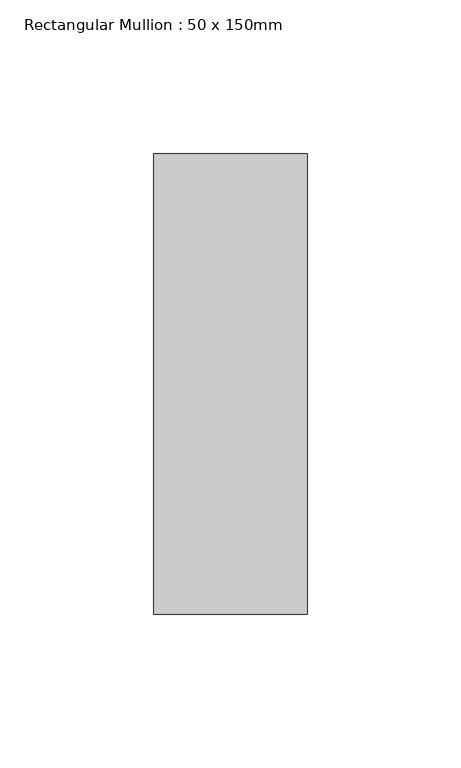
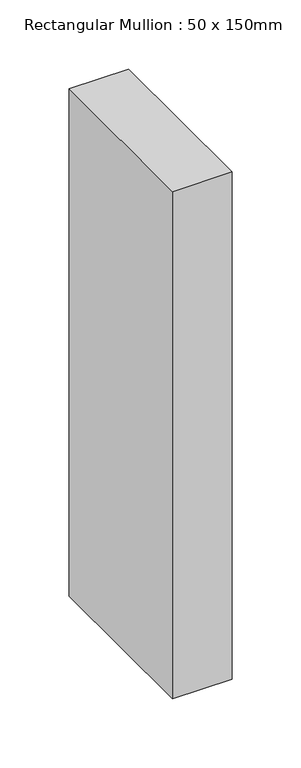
"""IFC4 building model written with IfcOpenShell, lengths in millimetres: member geometry, Rectangular Mullion : 50 x 150mm."""

from ifc_helpers import new_model, si_unit, frame, origin, place, context, project, spatial, polyline, outline, extrude, source, transform, mapped, element, save


def rectangular_mullion_50_x_150mm_6c212b22(model_context):
    return source(origin(), model_context, "Body", "SweptSolid", [
        extrude(outline(polyline([(0.0, 75.0), (0.0, -75.0), (-50.0, -75.0), (-50.0, 75.0), (0.0, 75.0)])), frame((0.0, 0.0, -448.4924443), z_axis=(0.0, 0.0, 1.0), x_axis=(1.0, 0.0, 0.0)), (0.0, 0.0, 1.0), 448.4924443),
    ])


if __name__ == "__main__":
    model = new_model("IFC4")
    model_context = context("Model", 3, world=origin())
    ifc_project = project(units=[si_unit("LENGTHUNIT", "METRE", prefix="MILLI")], contexts=[model_context])
    site = spatial("IfcSite", under=ifc_project)
    building = spatial("IfcBuilding", under=site)
    placement = place(None, origin())
    rectangular_mullion_50_x_150mm_shape = rectangular_mullion_50_x_150mm_6c212b22(model_context)
    element("IfcMember", 1, ObjectType="Rectangular Mullion : 50 x 150mm", at=placement, inside=building, context=model_context, shape_type="MappedRepresentation", body=[
        mapped(rectangular_mullion_50_x_150mm_shape, transform((0.0, 0.0, 0.0), x_axis=(1.0, 0.0, 0.0), y_axis=(0.0, 1.0, 0.0), z_axis=(0.0, 0.0, 1.0))),
    ])
    save(model, "model.ifc")
